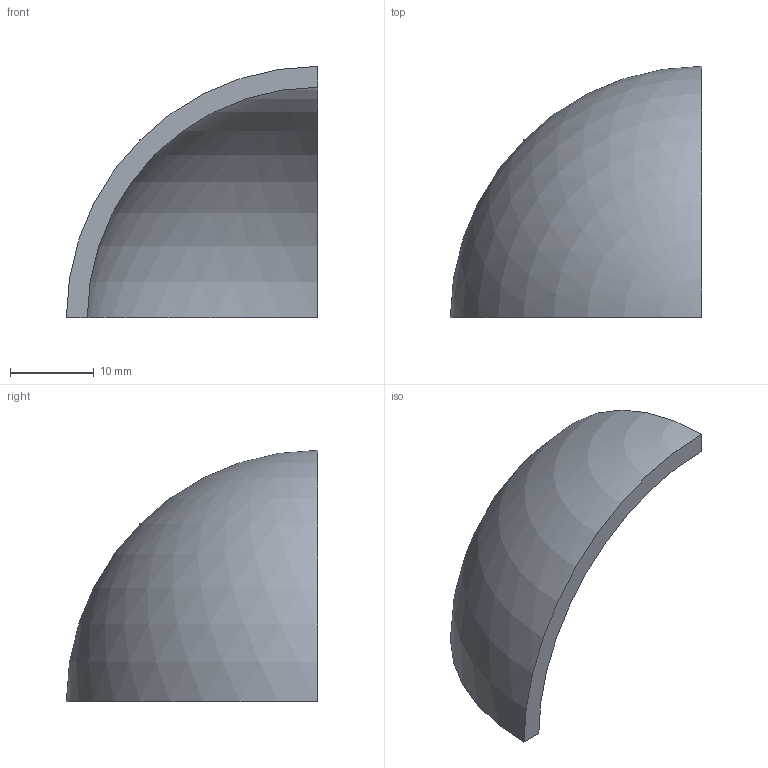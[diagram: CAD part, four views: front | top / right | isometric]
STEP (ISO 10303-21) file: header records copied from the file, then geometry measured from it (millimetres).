
FILE_DESCRIPTION(/* description */ ('Unknown'),/* implementation_level */ '2;1');
FILE_NAME(/* name */ 'CAP0630',/* time_stamp */ '2024-01-16T10:06:59+08:00',/* author */ ('Unknown'),/* organization */ ('Unknown'),/* preprocessor_version */ 'ST-DEVELOPER v16.7',/* originating_system */ 'DEX',/* authorisation */ $);
FILE_SCHEMA (('AUTOMOTIVE_DESIGN {1 0 10303 214 3 1 1}'));
Length unit declared in the file: millimetre
Products named in the file (1): CAP0630
Bounding box: 30 x 30 x 30 mm (x, y, z)
Volume: 3247.9 mm3; surface area: 2940.3 mm2
Topology: 1 solids, 1 shells, 5 faces, 11 edges, 6 vertices
Faces by surface type: plane 3, sphere 2
Entity records: 159 total; most frequent: DIRECTION 27, CARTESIAN_POINT 21, ORIENTED_EDGE 18, AXIS2_PLACEMENT_3D 12, EDGE_CURVE 9, VERTEX_POINT 6, CIRCLE 6, EDGE_LOOP 5
